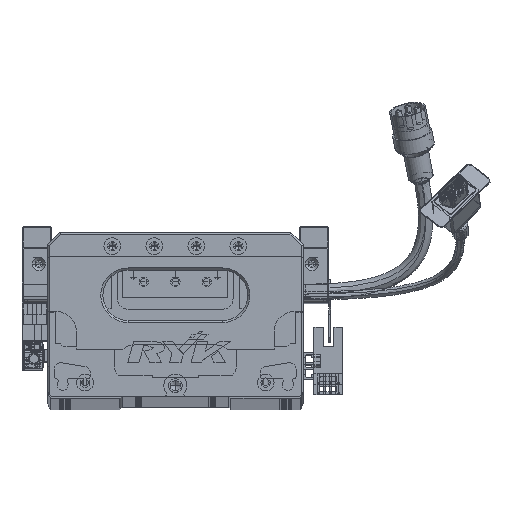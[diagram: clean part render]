
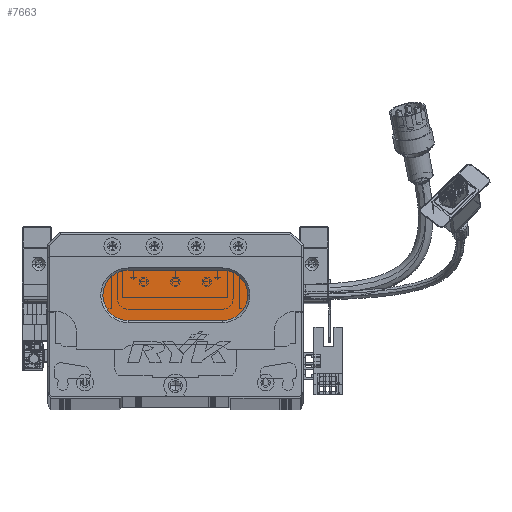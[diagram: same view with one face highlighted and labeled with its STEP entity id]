
A CAD part, top view. The second image highlights one B-rep face of the part: STEP entity #7663.
In plain terms, the highlighted planar face has unit normal (0, 0, 1) as drawn and (0, 0, -1) by its records, which use the part's own axes.
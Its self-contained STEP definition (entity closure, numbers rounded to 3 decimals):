
#299 = CARTESIAN_POINT ( 'NONE',  ( 38.5, 48., 13. ) ) ;
#1689 = EDGE_LOOP ( 'NONE', ( #15279, #59785, #92797, #114404, #46135 ) ) ;
#3820 = EDGE_CURVE ( 'NONE', #62658, #29759, #47095, .T. ) ;
#7663 = ADVANCED_FACE ( 'NONE', ( #72403 ), #30137, .T. ) ;
#8137 = DIRECTION ( 'NONE',  ( 0., 0., -1. ) ) ;
#11977 = EDGE_CURVE ( 'NONE', #39713, #62658, #125648, .T. ) ;
#12780 = VERTEX_POINT ( 'NONE', #25168 ) ;
#15279 = ORIENTED_EDGE ( 'NONE', *, *, #3820, .T. ) ;
#16947 = DIRECTION ( 'NONE',  ( -1., 0., 0. ) ) ;
#18637 = CARTESIAN_POINT ( 'NONE',  ( 83.5, 48., 13. ) ) ;
#20849 = DIRECTION ( 'NONE',  ( 0., 0., -1. ) ) ;
#24464 = VERTEX_POINT ( 'NONE', #132895 ) ;
#24890 = EDGE_CURVE ( 'NONE', #29759, #24464, #29349, .T. ) ;
#25168 = CARTESIAN_POINT ( 'NONE',  ( 26.5, 48., 13. ) ) ;
#29349 = LINE ( 'NONE', #100757, #70206 ) ;
#29759 = VERTEX_POINT ( 'NONE', #67072 ) ;
#30137 = PLANE ( 'NONE',  #57981 ) ;
#30943 = DIRECTION ( 'NONE',  ( -1., 0., 0. ) ) ;
#32492 = EDGE_CURVE ( 'NONE', #24464, #12780, #84417, .T. ) ;
#39713 = VERTEX_POINT ( 'NONE', #46290 ) ;
#39770 = AXIS2_PLACEMENT_3D ( 'NONE', #299, #20849, #103061 ) ;
#46135 = ORIENTED_EDGE ( 'NONE', *, *, #11977, .T. ) ;
#46290 = CARTESIAN_POINT ( 'NONE',  ( 38.5, 60., 13. ) ) ;
#47095 = CIRCLE ( 'NONE', #93502, 12. ) ;
#48060 = DIRECTION ( 'NONE',  ( 0., 0., -1. ) ) ;
#50522 = AXIS2_PLACEMENT_3D ( 'NONE', #110501, #48060, #16947 ) ;
#57981 = AXIS2_PLACEMENT_3D ( 'NONE', #18637, #8137, #123191 ) ;
#59785 = ORIENTED_EDGE ( 'NONE', *, *, #24890, .T. ) ;
#60831 = CIRCLE ( 'NONE', #50522, 12. ) ;
#61970 = DIRECTION ( 'NONE',  ( 1., 0., 0. ) ) ;
#62658 = VERTEX_POINT ( 'NONE', #77352 ) ;
#67072 = CARTESIAN_POINT ( 'NONE',  ( 83.5, 36., 13. ) ) ;
#70206 = VECTOR ( 'NONE', #112574, 1000. ) ;
#72403 = FACE_OUTER_BOUND ( 'NONE', #1689, .T. ) ;
#77352 = CARTESIAN_POINT ( 'NONE',  ( 83.5, 60., 13. ) ) ;
#84417 = CIRCLE ( 'NONE', #39770, 12. ) ;
#84796 = VECTOR ( 'NONE', #61970, 1000. ) ;
#92797 = ORIENTED_EDGE ( 'NONE', *, *, #32492, .T. ) ;
#93502 = AXIS2_PLACEMENT_3D ( 'NONE', #104357, #94307, #30943 ) ;
#94307 = DIRECTION ( 'NONE',  ( 0., 0., -1. ) ) ;
#100757 = CARTESIAN_POINT ( 'NONE',  ( 83.5, 36., 13. ) ) ;
#103061 = DIRECTION ( 'NONE',  ( -1., 0., 0. ) ) ;
#104357 = CARTESIAN_POINT ( 'NONE',  ( 83.5, 48., 13. ) ) ;
#110501 = CARTESIAN_POINT ( 'NONE',  ( 38.5, 48., 13. ) ) ;
#110602 = EDGE_CURVE ( 'NONE', #12780, #39713, #60831, .T. ) ;
#112574 = DIRECTION ( 'NONE',  ( -1., 0., 0. ) ) ;
#114404 = ORIENTED_EDGE ( 'NONE', *, *, #110602, .T. ) ;
#123191 = DIRECTION ( 'NONE',  ( -1., 0., 0. ) ) ;
#125648 = LINE ( 'NONE', #134489, #84796 ) ;
#132895 = CARTESIAN_POINT ( 'NONE',  ( 38.5, 36., 13. ) ) ;
#134489 = CARTESIAN_POINT ( 'NONE',  ( 83.5, 60., 13. ) ) ;
